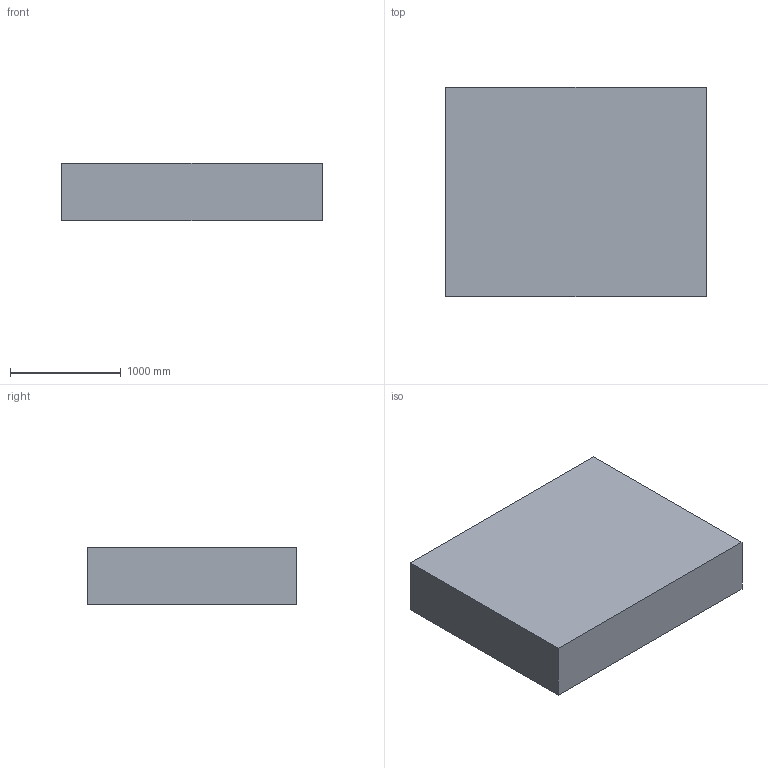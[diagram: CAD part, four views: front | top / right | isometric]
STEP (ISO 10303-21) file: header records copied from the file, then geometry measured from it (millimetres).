
FILE_DESCRIPTION(/* description */ ('ACIS model converted to STEP'),/* implementation_level */ '2;1');
FILE_NAME(/* name */ 'boeing.ap238.tols',/* time_stamp */ '2003-05-15T14:56:24-04:00',/* author */ ('Me'),/* organization */ ('Company'),/* preprocessor_version */ 'ST-DEVELOPER v9',/* originating_system */ 'ACIS 5.x',/* authorisation */ 'Someone else');
FILE_SCHEMA (('INTEGRATED_CNC_SCHEMA'));
Length unit declared in the file: inch
Products named in the file (3): strepo_15
Bounding box: 2346.96 x 1889.76 x 518.16 mm (x, y, z)
Surface area: 27122823.4 mm2
Topology: 2 solids, 2 shells, 78 faces, 189 edges, 120 vertices
Faces by surface type: plane 36, cylinder 31, torus 11
Full cylindrical faces by diameter (mm): 114.3 x2, 285.749 x2
Entity records: 8375 total; most frequent: DIRECTION 1010, CARTESIAN_POINT 812, VECTOR 573, ORIENTED_EDGE 459, AXIS2_PLACEMENT_3D 459, PROPERTY_DEFINITION 343, PRODUCT_DEFINITION_SHAPE 301, EDGE_CURVE 278
